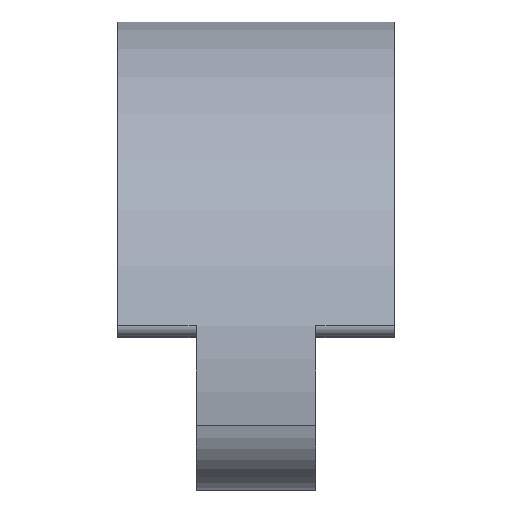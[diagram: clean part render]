
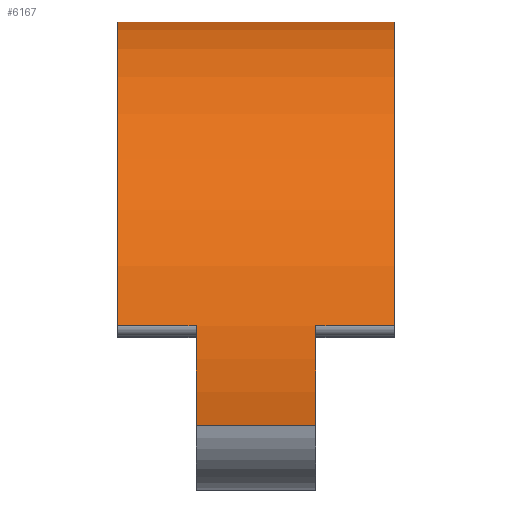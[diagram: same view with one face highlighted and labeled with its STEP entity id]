
A CAD part, left-side view. The second image highlights one B-rep face of the part: STEP entity #6167.
In plain terms, the highlighted cylindrical face has radius 115.871 mm (diameter 231.741 mm), a partial arc.
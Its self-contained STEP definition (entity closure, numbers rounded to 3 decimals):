
#4 = DIRECTION ( 'NONE',  ( -0.992, 0., -0.127 ) ) ;
#22 = DIRECTION ( 'NONE',  ( 0., -1., 0. ) ) ;
#60 = ORIENTED_EDGE ( 'NONE', *, *, #2823, .T. ) ;
#127 = DIRECTION ( 'NONE',  ( 0.041, 0., -0.999 ) ) ;
#230 = CARTESIAN_POINT ( 'NONE',  ( 9.255, -64.395, -234.811 ) ) ;
#380 = LINE ( 'NONE', #4310, #3675 ) ;
#471 = CARTESIAN_POINT ( 'NONE',  ( 9.255, -89.896, -234.811 ) ) ;
#484 = AXIS2_PLACEMENT_3D ( 'NONE', #2216, #22, #127 ) ;
#748 = CARTESIAN_POINT ( 'NONE',  ( 115.372, 0.1, -188.279 ) ) ;
#782 = ORIENTED_EDGE ( 'NONE', *, *, #4097, .F. ) ;
#980 = DIRECTION ( 'NONE',  ( 0., -1., 0. ) ) ;
#991 = VERTEX_POINT ( 'NONE', #748 ) ;
#1070 = FACE_OUTER_BOUND ( 'NONE', #4433, .T. ) ;
#1099 = ORIENTED_EDGE ( 'NONE', *, *, #6717, .T. ) ;
#1102 = EDGE_CURVE ( 'NONE', #2105, #5028, #7291, .T. ) ;
#1162 = LINE ( 'NONE', #2932, #6085 ) ;
#1198 = DIRECTION ( 'NONE',  ( 0., 1., 0. ) ) ;
#1216 = CARTESIAN_POINT ( 'NONE',  ( 115.372, -25.396, -188.279 ) ) ;
#1401 = VERTEX_POINT ( 'NONE', #3371 ) ;
#1447 = CARTESIAN_POINT ( 'NONE',  ( -105.375, -25.396, -217.897 ) ) ;
#1517 = CIRCLE ( 'NONE', #7191, 115.871 ) ;
#1536 = CIRCLE ( 'NONE', #2951, 115.871 ) ;
#1646 = EDGE_CURVE ( 'NONE', #3605, #991, #5208, .T. ) ;
#1661 = ORIENTED_EDGE ( 'NONE', *, *, #6580, .F. ) ;
#1695 = DIRECTION ( 'NONE',  ( 0., 1., 0. ) ) ;
#1743 = VECTOR ( 'NONE', #7317, 1000. ) ;
#1913 = CARTESIAN_POINT ( 'NONE',  ( 115.372, 0., -188.279 ) ) ;
#2105 = VERTEX_POINT ( 'NONE', #3324 ) ;
#2133 = AXIS2_PLACEMENT_3D ( 'NONE', #471, #3362, #4914 ) ;
#2143 = CIRCLE ( 'NONE', #3079, 115.871 ) ;
#2149 = ORIENTED_EDGE ( 'NONE', *, *, #5846, .T. ) ;
#2152 = EDGE_CURVE ( 'NONE', #3131, #3955, #4400, .T. ) ;
#2216 = CARTESIAN_POINT ( 'NONE',  ( 9.255, 0., -234.811 ) ) ;
#2269 = CARTESIAN_POINT ( 'NONE',  ( 9.255, -25.396, -234.811 ) ) ;
#2396 = VERTEX_POINT ( 'NONE', #4540 ) ;
#2434 = ORIENTED_EDGE ( 'NONE', *, *, #2152, .F. ) ;
#2533 = CARTESIAN_POINT ( 'NONE',  ( -105.587, -64.395, -250.219 ) ) ;
#2823 = EDGE_CURVE ( 'NONE', #7206, #2883, #5079, .T. ) ;
#2883 = VERTEX_POINT ( 'NONE', #5750 ) ;
#2913 = EDGE_CURVE ( 'NONE', #4227, #7206, #4576, .T. ) ;
#2932 = CARTESIAN_POINT ( 'NONE',  ( 124.097, -89.896, -219.403 ) ) ;
#2945 = DIRECTION ( 'NONE',  ( 0., 1., 0. ) ) ;
#2947 = DIRECTION ( 'NONE',  ( -0.972, 0., 0.233 ) ) ;
#2951 = AXIS2_PLACEMENT_3D ( 'NONE', #6952, #3102, #6988 ) ;
#3020 = ORIENTED_EDGE ( 'NONE', *, *, #1102, .T. ) ;
#3024 = DIRECTION ( 'NONE',  ( 0., 1., 0. ) ) ;
#3079 = AXIS2_PLACEMENT_3D ( 'NONE', #6204, #1695, #2947 ) ;
#3102 = DIRECTION ( 'NONE',  ( 0., 1., 0. ) ) ;
#3131 = VERTEX_POINT ( 'NONE', #2533 ) ;
#3277 = EDGE_CURVE ( 'NONE', #3131, #2396, #1517, .T. ) ;
#3324 = CARTESIAN_POINT ( 'NONE',  ( -105.375, 0.1, -217.897 ) ) ;
#3362 = DIRECTION ( 'NONE',  ( 0., 1., 0. ) ) ;
#3371 = CARTESIAN_POINT ( 'NONE',  ( -105.375, -89.896, -217.897 ) ) ;
#3395 = ORIENTED_EDGE ( 'NONE', *, *, #3277, .T. ) ;
#3417 = ORIENTED_EDGE ( 'NONE', *, *, #1646, .T. ) ;
#3421 = DIRECTION ( 'NONE',  ( 0., 1., 0. ) ) ;
#3473 = DIRECTION ( 'NONE',  ( 0., 1., 0. ) ) ;
#3579 = CARTESIAN_POINT ( 'NONE',  ( 115.372, -64.395, -188.279 ) ) ;
#3605 = VERTEX_POINT ( 'NONE', #1216 ) ;
#3675 = VECTOR ( 'NONE', #980, 1000. ) ;
#3846 = ORIENTED_EDGE ( 'NONE', *, *, #5533, .F. ) ;
#3901 = VECTOR ( 'NONE', #3473, 1000. ) ;
#3955 = VERTEX_POINT ( 'NONE', #5485 ) ;
#4001 = CARTESIAN_POINT ( 'NONE',  ( -105.375, 0., -217.897 ) ) ;
#4097 = EDGE_CURVE ( 'NONE', #3605, #7177, #4671, .T. ) ;
#4122 = CARTESIAN_POINT ( 'NONE',  ( 115.372, -89.896, -188.279 ) ) ;
#4227 = VERTEX_POINT ( 'NONE', #4122 ) ;
#4310 = CARTESIAN_POINT ( 'NONE',  ( -105.375, 0., -217.897 ) ) ;
#4361 = EDGE_CURVE ( 'NONE', #2883, #7177, #1162, .T. ) ;
#4380 = AXIS2_PLACEMENT_3D ( 'NONE', #6277, #2945, #5784 ) ;
#4400 = LINE ( 'NONE', #7283, #1743 ) ;
#4433 = EDGE_LOOP ( 'NONE', ( #3395, #1099, #2149, #6557, #60, #6742, #782, #3417, #1661, #3020, #3846, #2434 ) ) ;
#4540 = CARTESIAN_POINT ( 'NONE',  ( -105.375, -64.395, -217.897 ) ) ;
#4576 = LINE ( 'NONE', #5234, #3901 ) ;
#4671 = CIRCLE ( 'NONE', #5257, 115.871 ) ;
#4718 = CARTESIAN_POINT ( 'NONE',  ( 124.097, -25.396, -219.403 ) ) ;
#4914 = DIRECTION ( 'NONE',  ( -0.972, 0., 0.233 ) ) ;
#5028 = VERTEX_POINT ( 'NONE', #1447 ) ;
#5079 = CIRCLE ( 'NONE', #4380, 115.871 ) ;
#5101 = DIRECTION ( 'NONE',  ( 0., -1., 0. ) ) ;
#5208 = LINE ( 'NONE', #1913, #5472 ) ;
#5234 = CARTESIAN_POINT ( 'NONE',  ( 115.372, 0., -188.279 ) ) ;
#5257 = AXIS2_PLACEMENT_3D ( 'NONE', #2269, #1198, #4 ) ;
#5453 = DIRECTION ( 'NONE',  ( -0.992, 0., -0.127 ) ) ;
#5472 = VECTOR ( 'NONE', #3024, 1000. ) ;
#5485 = CARTESIAN_POINT ( 'NONE',  ( -105.587, -25.396, -250.219 ) ) ;
#5533 = EDGE_CURVE ( 'NONE', #3955, #5028, #1536, .T. ) ;
#5750 = CARTESIAN_POINT ( 'NONE',  ( 124.097, -64.395, -219.403 ) ) ;
#5784 = DIRECTION ( 'NONE',  ( -0.992, 0., -0.127 ) ) ;
#5833 = VECTOR ( 'NONE', #5101, 1000. ) ;
#5846 = EDGE_CURVE ( 'NONE', #1401, #4227, #6138, .T. ) ;
#6008 = DIRECTION ( 'NONE',  ( 0., 1., 0. ) ) ;
#6085 = VECTOR ( 'NONE', #3421, 1000. ) ;
#6138 = CIRCLE ( 'NONE', #2133, 115.871 ) ;
#6167 = ADVANCED_FACE ( 'NONE', ( #1070 ), #7285, .T. ) ;
#6204 = CARTESIAN_POINT ( 'NONE',  ( 9.255, 0.1, -234.811 ) ) ;
#6277 = CARTESIAN_POINT ( 'NONE',  ( 9.255, -64.395, -234.811 ) ) ;
#6557 = ORIENTED_EDGE ( 'NONE', *, *, #2913, .T. ) ;
#6580 = EDGE_CURVE ( 'NONE', #2105, #991, #2143, .T. ) ;
#6717 = EDGE_CURVE ( 'NONE', #2396, #1401, #380, .T. ) ;
#6742 = ORIENTED_EDGE ( 'NONE', *, *, #4361, .T. ) ;
#6952 = CARTESIAN_POINT ( 'NONE',  ( 9.255, -25.396, -234.811 ) ) ;
#6988 = DIRECTION ( 'NONE',  ( -0.992, 0., -0.127 ) ) ;
#7177 = VERTEX_POINT ( 'NONE', #4718 ) ;
#7191 = AXIS2_PLACEMENT_3D ( 'NONE', #230, #6008, #5453 ) ;
#7206 = VERTEX_POINT ( 'NONE', #3579 ) ;
#7283 = CARTESIAN_POINT ( 'NONE',  ( -105.587, -89.896, -250.219 ) ) ;
#7285 = CYLINDRICAL_SURFACE ( 'NONE', #484, 115.871 ) ;
#7291 = LINE ( 'NONE', #4001, #5833 ) ;
#7317 = DIRECTION ( 'NONE',  ( 0., 1., 0. ) ) ;
